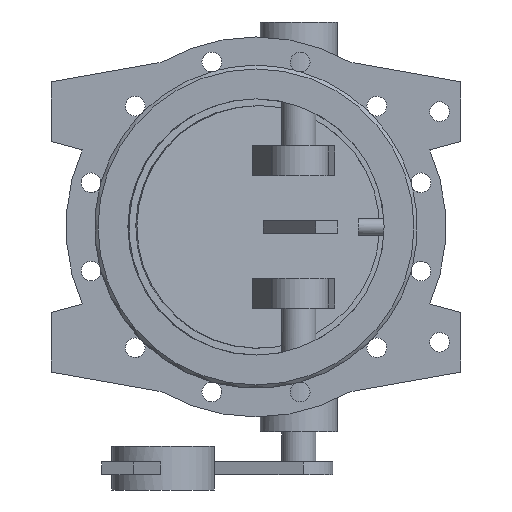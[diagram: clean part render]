
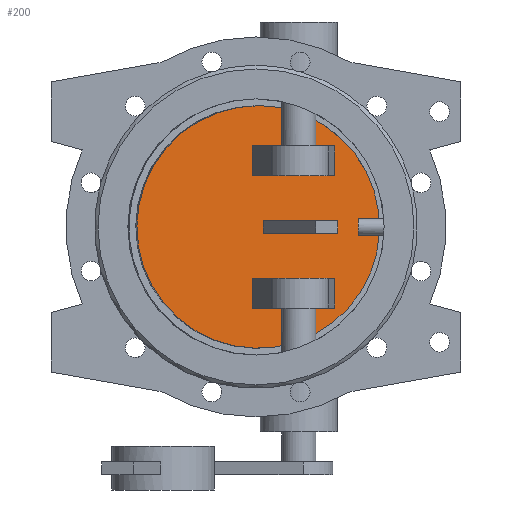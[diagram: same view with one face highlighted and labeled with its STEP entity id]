
A CAD part, front view. The second image highlights one B-rep face of the part: STEP entity #200.
In plain terms, the highlighted planar face has unit normal (0.131, -0.991, 0).
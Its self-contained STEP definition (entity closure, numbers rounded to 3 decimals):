
#200=ADVANCED_FACE('',(#1294,#1296,#1298,#1300),#1302,.T.);
#1294=FACE_BOUND('',#1295,.T.);
#1295=EDGE_LOOP('',(#2385));
#1296=FACE_BOUND('',#1297,.T.);
#1297=EDGE_LOOP('',(#2386,#2387,#2388,#2389));
#1298=FACE_BOUND('',#1299,.T.);
#1299=EDGE_LOOP('',(#2390,#2391,#2392,#2393));
#1300=FACE_BOUND('',#1301,.T.);
#1301=EDGE_LOOP('',(#2394,#2395,#2396,#2397));
#1302=PLANE('',#1303);
#1303=AXIS2_PLACEMENT_3D('',#1304,#1305,#1306);
#1304=CARTESIAN_POINT('',(-1.272,9.66,0.));
#1305=DIRECTION('',(0.131,-0.991,0.));
#1306=DIRECTION('',(0.,0.,-1.));
#2385=ORIENTED_EDGE('',*,*,#2960,.T.);
#2386=ORIENTED_EDGE('',*,*,#3012,.F.);
#2387=ORIENTED_EDGE('',*,*,#3013,.F.);
#2388=ORIENTED_EDGE('',*,*,#3014,.F.);
#2389=ORIENTED_EDGE('',*,*,#3015,.F.);
#2390=ORIENTED_EDGE('',*,*,#3016,.F.);
#2391=ORIENTED_EDGE('',*,*,#3017,.F.);
#2392=ORIENTED_EDGE('',*,*,#3018,.F.);
#2393=ORIENTED_EDGE('',*,*,#3019,.F.);
#2394=ORIENTED_EDGE('',*,*,#3020,.F.);
#2395=ORIENTED_EDGE('',*,*,#3021,.F.);
#2396=ORIENTED_EDGE('',*,*,#3022,.F.);
#2397=ORIENTED_EDGE('',*,*,#3023,.F.);
#2960=EDGE_CURVE('',#3305,#3305,#3306,.T.);
#3012=EDGE_CURVE('',#3409,#3410,#3411,.T.);
#3013=EDGE_CURVE('',#3412,#3409,#3413,.F.);
#3014=EDGE_CURVE('',#3414,#3412,#3415,.T.);
#3015=EDGE_CURVE('',#3410,#3414,#3416,.T.);
#3016=EDGE_CURVE('',#3417,#3418,#3419,.F.);
#3017=EDGE_CURVE('',#3420,#3417,#3421,.T.);
#3018=EDGE_CURVE('',#3422,#3420,#3423,.T.);
#3019=EDGE_CURVE('',#3418,#3422,#3424,.T.);
#3020=EDGE_CURVE('',#3425,#3426,#3427,.T.);
#3021=EDGE_CURVE('',#3428,#3425,#3429,.F.);
#3022=EDGE_CURVE('',#3430,#3428,#3431,.F.);
#3023=EDGE_CURVE('',#3426,#3430,#3432,.F.);
#3305=VERTEX_POINT('',#4397);
#3306=B_SPLINE_CURVE_WITH_KNOTS('',3,
(#4398,#4399,#4400,#4401,#4402,#4403,#4404,#4405,#4406,#4407,#4408,#4409,#4410,#4411,
#4412,#4413,#4414,#4415,#4416,#4417,#4418,#4419,#4420,#4421,#4422,#4423,#4424,#4425,
#4426,#4427,#4428,#4429,#4430,#4431,#4432,#4433,#4434,#4435,#4436,#4437,#4438,#4439,
#4440,#4441,#4442,#4443,#4444,#4445,#4446,#4447,#4448),
.UNSPECIFIED.,.T.,.F.,
(4,1,1,1,1,1,1,1,1,1,1,1,1,1,1,1,1,1,1,1,1,1,1,1,1,1,1,1,1,1,1,1,1,1,1,1,1,1,1,1,
1,1,1,1,1,1,1,1,4),
(0.,0.021,0.042,0.063,0.084,
0.105,0.126,0.147,0.168,0.189,
0.21,0.232,0.253,0.274,0.295,
0.316,0.337,0.358,0.379,0.4,
0.421,0.442,0.463,0.484,0.505,
0.526,0.548,0.569,0.59,0.611,
0.632,0.653,0.674,0.695,0.716,
0.737,0.758,0.779,0.8,0.822,
0.843,0.864,0.885,0.906,0.927,
0.948,0.969,0.986,1.),
.UNSPECIFIED.);
#3409=VERTEX_POINT('',#5743);
#3410=VERTEX_POINT('',#5744);
#3411=LINE('',#5745,#5746);
#3412=VERTEX_POINT('',#5748);
#3413=LINE('',#5749,#5750);
#3414=VERTEX_POINT('',#5752);
#3415=LINE('',#5753,#5754);
#3416=LINE('',#5756,#5757);
#3417=VERTEX_POINT('',#5759);
#3418=VERTEX_POINT('',#5760);
#3419=LINE('',#5761,#5762);
#3420=VERTEX_POINT('',#5764);
#3421=LINE('',#5765,#5766);
#3422=VERTEX_POINT('',#5768);
#3423=LINE('',#5769,#5770);
#3424=LINE('',#5772,#5773);
#3425=VERTEX_POINT('',#5775);
#3426=VERTEX_POINT('',#5776);
#3427=LINE('',#5777,#5778);
#3428=VERTEX_POINT('',#5780);
#3429=LINE('',#5781,#5782);
#3430=VERTEX_POINT('',#5784);
#3431=LINE('',#5785,#5786);
#3432=LINE('',#5788,#5789);
#4397=CARTESIAN_POINT('',(2.611,10.171,142.));
#4398=CARTESIAN_POINT('',(2.611,10.171,142.));
#4399=CARTESIAN_POINT('',(-3.625,9.35,142.));
#4400=CARTESIAN_POINT('',(-16.111,7.706,141.177));
#4401=CARTESIAN_POINT('',(-34.541,5.28,137.488));
#4402=CARTESIAN_POINT('',(-52.351,2.935,131.393));
#4403=CARTESIAN_POINT('',(-69.215,0.715,122.996));
#4404=CARTESIAN_POINT('',(-84.823,-1.34,112.449));
#4405=CARTESIAN_POINT('',(-98.906,-3.194,99.932));
#4406=CARTESIAN_POINT('',(-111.215,-4.814,85.665));
#4407=CARTESIAN_POINT('',(-121.534,-6.173,69.895));
#4408=CARTESIAN_POINT('',(-129.68,-7.245,52.898));
#4409=CARTESIAN_POINT('',(-135.511,-8.013,34.972));
#4410=CARTESIAN_POINT('',(-138.922,-8.462,16.433));
#4411=CARTESIAN_POINT('',(-139.854,-8.585,-2.395));
#4412=CARTESIAN_POINT('',(-138.29,-8.379,-21.179));
#4413=CARTESIAN_POINT('',(-134.258,-7.848,-39.59));
#4414=CARTESIAN_POINT('',(-127.83,-7.002,-57.305));
#4415=CARTESIAN_POINT('',(-119.12,-5.855,-74.014));
#4416=CARTESIAN_POINT('',(-108.282,-4.428,-89.424));
#4417=CARTESIAN_POINT('',(-95.507,-2.746,-103.267));
#4418=CARTESIAN_POINT('',(-81.02,-0.839,-115.303));
#4419=CARTESIAN_POINT('',(-65.072,1.261,-125.321));
#4420=CARTESIAN_POINT('',(-47.944,3.516,-133.149));
#4421=CARTESIAN_POINT('',(-29.933,5.887,-138.65));
#4422=CARTESIAN_POINT('',(-11.355,8.332,-141.729));
#4423=CARTESIAN_POINT('',(7.467,10.811,-142.332));
#4424=CARTESIAN_POINT('',(26.206,13.277,-140.448));
#4425=CARTESIAN_POINT('',(44.533,15.69,-136.111));
#4426=CARTESIAN_POINT('',(62.13,18.007,-129.394));
#4427=CARTESIAN_POINT('',(78.689,20.187,-120.414));
#4428=CARTESIAN_POINT('',(93.921,22.192,-109.327));
#4429=CARTESIAN_POINT('',(107.558,23.988,-96.326));
#4430=CARTESIAN_POINT('',(119.362,25.542,-81.636));
#4431=CARTESIAN_POINT('',(129.123,26.827,-65.514));
#4432=CARTESIAN_POINT('',(136.671,27.82,-48.243));
#4433=CARTESIAN_POINT('',(141.871,28.505,-30.124));
#4434=CARTESIAN_POINT('',(144.632,28.869,-11.477));
#4435=CARTESIAN_POINT('',(144.904,28.904,7.372));
#4436=CARTESIAN_POINT('',(142.684,28.612,26.09));
#4437=CARTESIAN_POINT('',(138.01,27.997,44.348));
#4438=CARTESIAN_POINT('',(130.967,27.07,61.827));
#4439=CARTESIAN_POINT('',(121.679,25.847,78.22));
#4440=CARTESIAN_POINT('',(110.31,24.35,93.241));
#4441=CARTESIAN_POINT('',(97.06,22.606,106.63));
#4442=CARTESIAN_POINT('',(82.164,20.645,118.149));
#4443=CARTESIAN_POINT('',(65.902,18.504,127.591));
#4444=CARTESIAN_POINT('',(48.508,16.214,134.824));
#4445=CARTESIAN_POINT('',(31.356,13.956,139.419));
#4446=CARTESIAN_POINT('',(15.935,11.925,141.602));
#4447=CARTESIAN_POINT('',(6.683,10.707,142.));
#4448=CARTESIAN_POINT('',(2.611,10.171,142.));
#5743=CARTESIAN_POINT('',(82.749,20.722,-7.5));
#5744=CARTESIAN_POINT('',(82.749,20.722,7.5));
#5745=CARTESIAN_POINT('',(82.749,20.722,-7.5));
#5746=VECTOR('',#5747,1.);
#5747=DIRECTION('',(0.,0.,1.));
#5748=CARTESIAN_POINT('',(8.391,10.932,-7.5));
#5749=CARTESIAN_POINT('',(82.749,20.722,-7.5));
#5750=VECTOR('',#5751,1.);
#5751=DIRECTION('',(-0.991,-0.131,0.));
#5752=CARTESIAN_POINT('',(8.391,10.932,7.5));
#5753=CARTESIAN_POINT('',(8.391,10.932,7.5));
#5754=VECTOR('',#5755,1.);
#5755=DIRECTION('',(0.,0.,-1.));
#5756=CARTESIAN_POINT('',(82.749,20.722,7.5));
#5757=VECTOR('',#5758,1.);
#5758=DIRECTION('',(-0.991,-0.131,0.));
#5759=CARTESIAN_POINT('',(-4.154,9.281,-95.));
#5760=CARTESIAN_POINT('',(92.142,21.958,-95.));
#5761=CARTESIAN_POINT('',(92.142,21.958,-95.));
#5762=VECTOR('',#5763,1.);
#5763=DIRECTION('',(-0.991,-0.131,0.));
#5764=CARTESIAN_POINT('',(-4.154,9.281,-60.));
#5765=CARTESIAN_POINT('',(-4.154,9.281,-60.));
#5766=VECTOR('',#5767,1.);
#5767=DIRECTION('',(0.,0.,-1.));
#5768=CARTESIAN_POINT('',(92.142,21.958,-60.));
#5769=CARTESIAN_POINT('',(92.142,21.958,-60.));
#5770=VECTOR('',#5771,1.);
#5771=DIRECTION('',(-0.991,-0.131,0.));
#5772=CARTESIAN_POINT('',(92.142,21.958,-95.));
#5773=VECTOR('',#5774,1.);
#5774=DIRECTION('',(0.,0.,1.));
#5775=CARTESIAN_POINT('',(92.142,21.958,95.));
#5776=CARTESIAN_POINT('',(-4.154,9.281,95.));
#5777=CARTESIAN_POINT('',(92.142,21.958,95.));
#5778=VECTOR('',#5779,1.);
#5779=DIRECTION('',(-0.991,-0.131,0.));
#5780=CARTESIAN_POINT('',(92.142,21.958,60.));
#5781=CARTESIAN_POINT('',(92.142,21.958,95.));
#5782=VECTOR('',#5783,1.);
#5783=DIRECTION('',(0.,0.,-1.));
#5784=CARTESIAN_POINT('',(-4.154,9.281,60.));
#5785=CARTESIAN_POINT('',(92.142,21.958,60.));
#5786=VECTOR('',#5787,1.);
#5787=DIRECTION('',(-0.991,-0.131,0.));
#5788=CARTESIAN_POINT('',(-4.154,9.281,60.));
#5789=VECTOR('',#5790,1.);
#5790=DIRECTION('',(0.,0.,1.));
